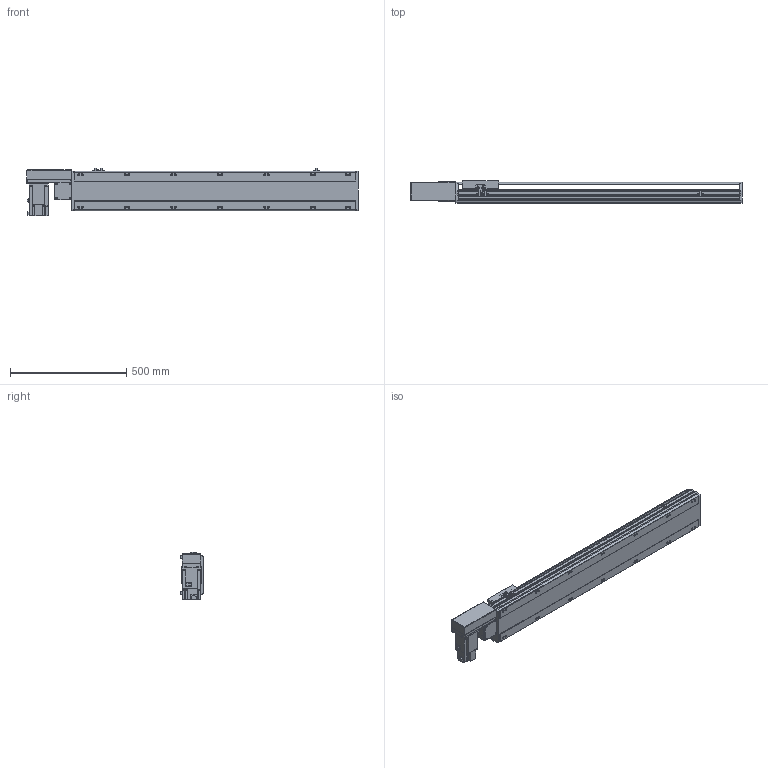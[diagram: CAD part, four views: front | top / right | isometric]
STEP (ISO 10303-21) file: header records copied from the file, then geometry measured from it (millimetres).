
FILE_DESCRIPTION( ( 'STEP AP214' ), '1' );
FILE_NAME( 'x:/temp/worker_4/temp/exporttempdir_2248_261_u05kZ/format_0/PBS170-P40-S950-R-T75-C1-N(0).stp', '2022-06-07T07:29:54', ( 'License CC BY-ND 4.0' ), ( 'CADENAS' ), ' ', 'PARTsolutions', ' ' );
FILE_SCHEMA( ( 'AUTOMOTIVE_DESIGN { 1 0 10303 214 1 1 1 1 }' ) );
Length unit declared in the file: millimetre
Products named in the file (7): PBS170-P40-S950-R-T75-C1-N(0); _PBS170-S950()_body; _PBS170T-R_motors; _T75-p1; _PBS170_sliser; _PBS170_plant; _PBS170_sensor
Assembly tree (8 placements, depth 2):
  PBS170-P40-S950-R-T75-C1-N(0)
    _PBS170-S950()_body
    _PBS170T-R_motors
    _T75-p1
    _PBS170_sliser
    _PBS170_plant
    _PBS170_sensor  x3
Bounding box: 1428 x 97 x 205.3 mm (x, y, z)
Volume: 10634739.7 mm3; surface area: 1396961.2 mm2
Topology: 8 solids, 8 shells, 1066 faces, 2835 edges, 1848 vertices
Faces by surface type: plane 681, cylinder 331, cone 44, sphere 8, torus 2
Full cylindrical faces by diameter (mm): 3.242 x4, 4 x2, 4.4 x4, 4.5 x6, 4.917 x4, 6 x9, 6.647 x22, 7 x2, 7.5 x4, 8 x8, 8.5 x14, 10 x4, 10.5 x14, 11 x2, 30 x2, 40 x1, 70 x1
Entity records: 39098 total; most frequent: CARTESIAN_POINT 6053, DIRECTION 5230, ORIENTED_EDGE 4968, EDGE_CURVE 2484, AXIS2_PLACEMENT_3D 1807, VERTEX_POINT 1706, LINE 1616, VECTOR 1616
